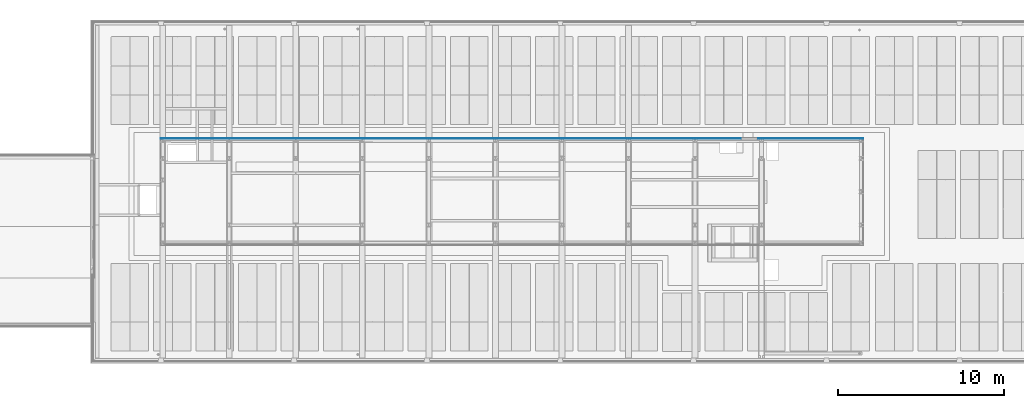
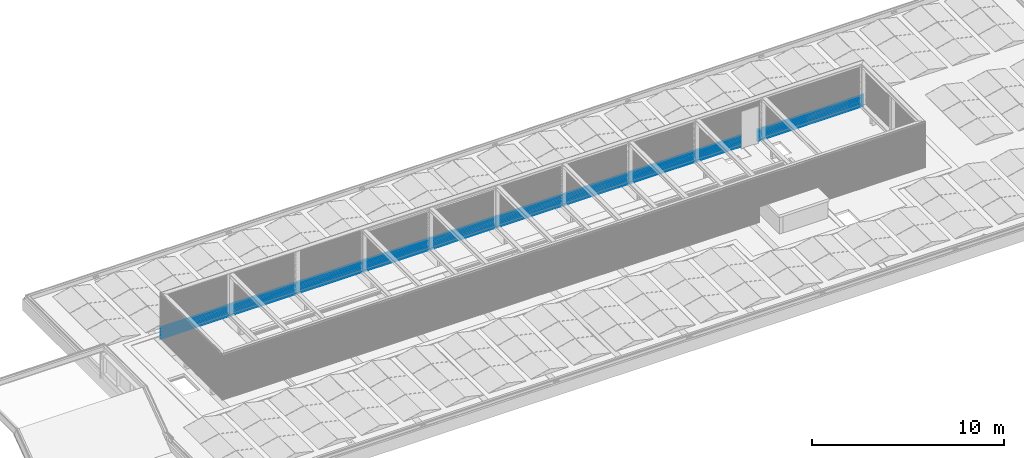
# One storey, part 45 of 63: 9 building element parts, 1 opening, 1 element without a shape of its own.
"""IFC2X3 building model written with IfcOpenShell, lengths in millimetres."""

from ifc_helpers import new_model, entity, si_unit, converted_unit, derived_unit, money_unit, direction, frame, origin_with_axes, place, context, subcontext, project, spatial, faceted_brep, material, type_object, element, aggregate, save


model = new_model("IFC2X3")

# Units and contexts
model_context = context("Model", 3, precision=0.01, world=origin_with_axes(), true_north=direction((0.0, 1.0)))
body_context = subcontext(model_context, "Body", "Model", "MODEL_VIEW")
ifc_project = project(units=[si_unit("LENGTHUNIT", "METRE", prefix="MILLI"), si_unit("AREAUNIT", "SQUARE_METRE"), si_unit("VOLUMEUNIT", "CUBIC_METRE"), converted_unit("PLANEANGLEUNIT", "DEGREE", entity("IfcPlaneAngleMeasure", 0.0174532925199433), si_unit("PLANEANGLEUNIT", "RADIAN"), dimensions=[0, 0, 0, 0, 0, 0, 0]), money_unit("EUR"), converted_unit("TIMEUNIT", "Year", entity("IfcTimeMeasure", 31557600.0), si_unit("TIMEUNIT", "SECOND"), dimensions=[0, 0, 1, 0, 0, 0, 0]), si_unit("MASSUNIT", "GRAM", prefix="KILO"), si_unit("THERMODYNAMICTEMPERATUREUNIT", "DEGREE_CELSIUS"), si_unit("LUMINOUSINTENSITYUNIT", "LUMEN"), si_unit("ENERGYUNIT", "JOULE", prefix="MEGA"), derived_unit("THERMALCONDUCTANCEUNIT", [(si_unit("POWERUNIT", "WATT"), 1), (si_unit("LENGTHUNIT", "METRE"), -1), (si_unit("THERMODYNAMICTEMPERATUREUNIT", "KELVIN"), -1)]), derived_unit("SPECIFICHEATCAPACITYUNIT", [(si_unit("ENERGYUNIT", "JOULE"), 1), (si_unit("MASSUNIT", "GRAM", prefix="KILO"), -1), (si_unit("THERMODYNAMICTEMPERATUREUNIT", "KELVIN"), -1)]), derived_unit("MASSDENSITYUNIT", [(si_unit("MASSUNIT", "GRAM", prefix="KILO"), 1), (si_unit("VOLUMEUNIT", "CUBIC_METRE"), -1)])], contexts=[model_context])

# Site, building, storey
site_placement = place(None, origin_with_axes())
site = spatial("IfcSite", under=ifc_project, at=site_placement, Name="<site naam>", CompositionType="ELEMENT")
building_placement = place(site_placement, origin_with_axes())
building = spatial("IfcBuilding", under=site, at=building_placement, Name="<Naam gebouw>", CompositionType="ELEMENT")
storey_placement = place(building_placement, frame((0.0, 0.0, 12770.0), z_axis=(0.0, 0.0, 1.0), x_axis=(1.0, 0.0, 0.0)))
storey = spatial("IfcBuildingStorey", under=building, at=storey_placement, Name="04 4e verdieping", CompositionType="ELEMENT", Elevation=12770.0)

# Wall, opening, building element parts
wall_type = type_object("IfcWallType", Name="Gevelbeplating golf 18 x 2900", PredefinedType="NOTDEFINED")
wall_placement = place(storey_placement, frame((58128.00007858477, 13218.00009009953, 299.9552842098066), z_axis=(0.0, 0.0, 1.0), x_axis=(-1.0, 0.0, 0.0)))
wall = element("IfcWall", 1, at=wall_placement, inside=storey, type_object=wall_type, Name="47_Binnenwand_Gevelbeplating")
opening_placement = place(wall_placement, frame((6856.073474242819, 0.0, -120.0392154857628), z_axis=(0.0, 0.0, 1.0), x_axis=(1.0, 0.0, 0.0)))
element("IfcOpeningElement", 2, at=opening_placement, cuts=wall, Name="47_BU-F-02_305", context=body_context, shape_type="Brep", body=[
    faceted_brep([(517.000000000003, 19.00000000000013, 2367.000000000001), (517.000000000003, 19.00000000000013, 0.0), (-517.000000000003, 19.00000000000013, 0.0), (-517.000000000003, 19.00000000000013, 2367.000000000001), (517.000000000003, -1.000078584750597, 2367.000000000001), (517.000000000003, -1.000078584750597, 0.0), (-517.000000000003, -1.000078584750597, 0.0), (-517.000000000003, -1.000078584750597, 2367.000000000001)], [[[0, 1, 2, 3]], [[4, 5, 1, 0]], [[5, 6, 2, 1]], [[6, 7, 3, 2]], [[7, 4, 0, 3]], [[6, 5, 4, 7]]]),
])
ifc_material = material(Name="gevelafwerking type 3 - Aluminium RAL1036")
building_element_part_1_placement = place(wall_placement, origin_with_axes())
building_element_part_1 = element("IfcBuildingElementPart", 3, at=building_element_part_1_placement, material=ifc_material, Name="gevelafwerking type 3 - Aluminium RAL1036", context=body_context, shape_type="Brep", body=[
    faceted_brep([(0.9999999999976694, 0.9999999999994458, 38.00000000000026), (0.9999999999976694, 0.0, 38.00000000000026), (42256.00016869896, 0.0, 38.00001341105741), (42256.00016869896, 0.9999999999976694, 38.00001341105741), (3.116478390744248, 2.188229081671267, 27.8876744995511), (3.116478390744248, 3.116478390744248, 27.8876744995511), (3.340126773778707, 2.257358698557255, 27.56821013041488), (42253.74282987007, 2.257358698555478, 27.56821013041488), (42253.74282987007, 3.340126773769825, 27.56821013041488), (42253.811958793, 3.116478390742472, 27.8876744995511), (9.041583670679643, 9.04158367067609, 19.42412115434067), (9.041583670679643, 8.209548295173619, 19.42412115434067), (9.398125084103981, 8.55525261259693, 18.95111073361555), (42247.44490768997, 8.555252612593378, 18.95111073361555), (42247.44490768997, 9.398125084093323, 18.95111073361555), (42247.79061367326, 9.041583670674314, 19.42412115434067), (15.62926287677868, 15.62926287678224, 10.68448868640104), (15.62926287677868, 14.5442322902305, 10.68448868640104), (15.70000052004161, 14.7751970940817, 10.36568676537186), (42241.22498571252, 14.77519709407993, 10.36568676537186), (42241.22498571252, 15.70000052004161, 10.36568676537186), (42241.45594962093, 15.62926287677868, 10.68448868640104), (18.00000000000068, 18.00000000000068, 0.0), (18.00000000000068, 16.9999976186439, 0.0), (42239.00018658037, 16.99999761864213, 0.0), (42239.00018658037, 17.99999999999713, 0.0)], [[[0, 1, 2, 3]], [[4, 1, 0, 5]], [[4, 6, 7, 2, 1]], [[3, 2, 7, 8, 9]], [[5, 0, 3, 9]], [[6, 4, 5, 10, 11]], [[11, 12, 13, 7, 6]], [[8, 7, 13, 14, 15]], [[10, 5, 9, 8, 15]], [[12, 11, 10, 16, 17]], [[17, 18, 19, 13, 12]], [[14, 13, 19, 20, 21]], [[16, 10, 15, 14, 21]], [[18, 17, 16, 22, 23]], [[18, 23, 24, 19]], [[20, 19, 24, 25]], [[22, 16, 21, 20, 25]], [[23, 22, 25, 24]]]),
])
building_element_part_2_placement = place(wall_placement, origin_with_axes())
building_element_part_2 = element("IfcBuildingElementPart", 4, at=building_element_part_2_placement, material=ifc_material, Name="gevelafwerking type 3 - Aluminium RAL1036", context=body_context, shape_type="Brep", body=[
    faceted_brep([(18238.00007858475, 15.62925335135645, 390.6844886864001), (18238.00007858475, 10.1433027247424, 397.9624982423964), (18018.00007858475, 10.1433027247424, 397.9624982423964), (18018.00007858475, 15.62925335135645, 390.6844886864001), (15.62925335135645, 15.62925335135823, 390.6844886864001), (9.041574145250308, 9.041574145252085, 399.4241211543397), (42247.7906512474, 9.041574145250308, 399.4241211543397), (42247.44495090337, 9.398112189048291, 398.9511152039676), (42241.45594798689, 15.62925335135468, 390.6844886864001), (18238.00007858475, 17.9999904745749, 380.0000019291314), (18238.00007858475, 16.99998809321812, 380.0000019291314), (18238.00007858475, 14.77518756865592, 390.3656912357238), (18238.00007858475, 10.1433027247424, 396.7591082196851), (18018.00007858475, 10.1433027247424, 396.7591082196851), (18018.00007858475, 14.77518756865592, 390.3656912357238), (18018.00007858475, 16.99998809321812, 380.0000019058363), (18018.00007858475, 17.9999904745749, 380.0000019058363), (17.99999047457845, 17.9999904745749, 380.0000000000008), (15.62925335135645, 14.54422600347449, 390.6844886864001), (9.398112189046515, 8.55524308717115, 398.9511152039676), (9.041574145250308, 8.209542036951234, 399.4241211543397), (42253.74282987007, 3.340114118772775, 407.5682146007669), (3.11646886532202, 3.116468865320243, 407.8876744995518), (42253.81195782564, 3.116468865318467, 407.8876744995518), (42253.74282987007, 2.257349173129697, 407.5682146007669), (42247.44495090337, 8.555243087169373, 398.9511152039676), (42241.22498571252, 15.69999000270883, 390.3656912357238), (42241.22498571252, 14.77518756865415, 390.3656912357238), (42239.00018658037, 17.99999047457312, 380.000004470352), (42239.00018658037, 16.99998809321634, 380.000004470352), (15.69999000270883, 14.7751875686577, 390.3656912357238), (17.99999047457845, 16.9999880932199, 380.0000000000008), (3.340114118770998, 2.25734917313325, 407.5682146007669), (3.11646886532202, 2.188220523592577, 407.8876744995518), (42256.00016869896, 0.9999904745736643, 418.0000178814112), (0.9999904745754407, 0.9999904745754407, 417.9999999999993), (42256.00016869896, -9.5254275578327e-06, 418.0000178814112), (0.9999904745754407, -9.525424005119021e-06, 417.9999999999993)], [[[0, 1, 2, 3, 4, 5, 6, 7, 8]], [[1, 0, 9, 10, 11, 12]], [[2, 1, 12, 13]], [[3, 2, 13, 14, 15, 16]], [[3, 16, 17, 4]], [[4, 18, 19, 20, 5]], [[21, 6, 5, 22, 23]], [[7, 6, 21, 24, 25]], [[26, 8, 7, 25, 27]], [[9, 0, 8, 26, 28]], [[10, 9, 28, 29]], [[11, 10, 29, 27]], [[12, 11, 27, 25, 19, 18, 30, 14, 13]], [[15, 14, 30, 31]], [[16, 15, 31, 17]], [[17, 31, 30, 18, 4]], [[24, 32, 20, 19, 25]], [[5, 20, 32, 33, 22]], [[34, 23, 22, 35]], [[21, 23, 34, 36, 24]], [[29, 28, 26, 27]], [[36, 37, 33, 32, 24]], [[35, 22, 33, 37]], [[36, 34, 35, 37]]]),
])
building_element_part_3_placement = place(wall_placement, origin_with_axes())
building_element_part_3 = element("IfcBuildingElementPart", 5, at=building_element_part_3_placement, material=ifc_material, Name="gevelafwerking type 3 - Aluminium RAL1036", context=body_context, shape_type="Brep", body=[
    faceted_brep([(18132.75007858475, 15.6292604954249, 86.68448868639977), (18132.75007858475, 10.14329121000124, 93.96252299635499), (18123.25007858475, 10.14329121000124, 93.96252299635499), (18123.25007858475, 15.6292604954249, 86.68448868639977), (15.62926049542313, 15.62926049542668, 86.68448868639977), (9.041581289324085, 9.041581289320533, 95.4241211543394), (42247.79062565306, 9.041581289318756, 95.4241211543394), (42247.44490768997, 9.398135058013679, 94.9510943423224), (42241.455961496, 15.62926049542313, 86.68448868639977), (18132.75007858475, 17.99999761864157, 75.99999296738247), (18132.75007858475, 16.99999523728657, 75.99999296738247), (18132.75007858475, 14.77519471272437, 86.36567037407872), (18132.75007858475, 10.14329121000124, 92.75911088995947), (18123.25007858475, 10.14329121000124, 92.75911088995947), (18123.25007858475, 14.77519471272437, 86.36567037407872), (18123.25007858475, 16.99999523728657, 75.99999297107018), (18123.25007858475, 17.99999761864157, 75.99999297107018), (17.99999761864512, 17.99999761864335, 76.00000000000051), (15.62926049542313, 14.54421803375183, 86.68448868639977), (9.398135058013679, 8.555250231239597, 94.9510943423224), (9.041581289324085, 8.209533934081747, 95.4241211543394), (3.116476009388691, 3.116476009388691, 103.8876744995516), (42253.81196233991, 3.116476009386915, 103.8876744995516), (42253.74282987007, 3.340135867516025, 103.5681937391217), (42253.74282987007, 2.257356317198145, 103.5681937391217), (42247.44490768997, 8.555250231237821, 94.9510943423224), (42241.22498571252, 14.77519471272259, 86.36567037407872), (42241.22498571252, 15.70000177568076, 86.36567037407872), (42239.00018658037, 17.99999761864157, 75.99998360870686), (42239.00018658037, 16.99999523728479, 75.99998360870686), (15.70000177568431, 14.77519471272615, 86.36567037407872), (17.99999761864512, 16.99999523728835, 76.00000000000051), (3.340135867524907, 2.257356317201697, 103.5681937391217), (3.116476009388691, 2.188223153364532, 103.8876744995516), (0.9999976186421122, 0.9999976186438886, 114.0000000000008), (42256.00016869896, 0.9999976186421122, 113.9999970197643), (42256.00016869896, -2.381359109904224e-06, 113.9999970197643), (0.9999976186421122, -2.381355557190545e-06, 114.0000000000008)], [[[0, 1, 2, 3, 4, 5, 6, 7, 8]], [[1, 0, 9, 10, 11, 12]], [[2, 1, 12, 13]], [[3, 2, 13, 14, 15, 16]], [[3, 16, 17, 4]], [[18, 19, 20, 5, 4]], [[6, 5, 21, 22, 23]], [[6, 23, 24, 25, 7]], [[8, 7, 25, 26, 27]], [[9, 0, 8, 27, 28]], [[10, 9, 28, 29]], [[11, 10, 29, 26]], [[12, 11, 26, 25, 19, 18, 30, 14, 13]], [[15, 14, 30, 31]], [[16, 15, 31, 17]], [[31, 30, 18, 4, 17]], [[32, 20, 19, 25, 24]], [[20, 32, 33, 21, 5]], [[22, 21, 34, 35]], [[22, 35, 36, 24, 23]], [[28, 27, 26, 29]], [[37, 33, 32, 24, 36]], [[21, 33, 37, 34]], [[35, 34, 37, 36]]]),
])
building_element_part_4_placement = place(wall_placement, origin_with_axes())
building_element_part_4 = element("IfcBuildingElementPart", 6, at=building_element_part_4_placement, material=ifc_material, Name="gevelafwerking type 3 - Aluminium RAL1036", context=body_context, shape_type="Brep", body=[
    faceted_brep([(18238.00007858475, 15.62925335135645, 314.6844886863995), (18238.00007858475, 10.1433027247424, 321.9624982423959), (18018.00007858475, 10.1433027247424, 321.9624982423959), (18018.00007858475, 15.62925335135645, 314.6844886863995), (15.62925335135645, 15.62925335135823, 314.6844886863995), (9.041574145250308, 9.041574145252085, 323.4241211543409), (42247.79066911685, 9.041574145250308, 323.4241211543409), (42247.44495090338, 9.398132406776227, 322.9510883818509), (42241.45596741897, 15.62925335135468, 314.6844886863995), (18238.00007858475, 17.9999904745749, 304.0000090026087), (18238.00007858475, 16.99998809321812, 304.0000090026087), (18238.00007858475, 14.7751875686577, 314.365664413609), (18238.00007858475, 10.1433027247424, 320.7590813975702), (18018.00007858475, 10.1433027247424, 320.7590813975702), (18018.00007858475, 14.7751875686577, 314.365664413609), (18018.00007858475, 16.99998809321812, 304.0000088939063), (18018.00007858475, 17.9999904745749, 304.0000088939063), (17.99999047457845, 17.9999904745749, 304.0000000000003), (15.62925335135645, 14.54420657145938, 314.6844886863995), (9.39813240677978, 8.555243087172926, 322.9510883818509), (9.041574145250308, 8.209522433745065, 323.4241211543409), (42253.74282987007, 3.340102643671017, 331.56823099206), (3.11646886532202, 3.116468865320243, 331.8876744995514), (42253.81195895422, 3.116468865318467, 331.8876744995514), (42253.74282987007, 2.257349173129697, 331.56823099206), (42247.44495090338, 8.55524308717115, 322.9510883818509), (42241.22498107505, 14.77518756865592, 314.365664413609), (42241.22498107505, 15.69999595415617, 314.365664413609), (42239.00018658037, 17.99999047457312, 304.0000208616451), (42239.00018658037, 16.99998809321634, 304.0000208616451), (15.69999595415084, 14.7751875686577, 314.365664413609), (17.99999047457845, 16.9999880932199, 304.0000000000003), (3.340102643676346, 2.25734917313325, 331.56823099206), (3.11646886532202, 2.188224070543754, 331.8876744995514), (42256.00016402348, 0.9999904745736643, 341.9999910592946), (0.9999904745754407, 0.9999904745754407, 342.0000000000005), (42256.00016402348, -9.5254275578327e-06, 341.9999910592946), (0.9999904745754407, -9.525424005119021e-06, 342.0000000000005)], [[[0, 1, 2, 3, 4, 5, 6, 7, 8]], [[1, 0, 9, 10, 11, 12]], [[2, 1, 12, 13]], [[3, 2, 13, 14, 15, 16]], [[3, 16, 17, 4]], [[4, 18, 19, 20, 5]], [[21, 6, 5, 22, 23]], [[24, 25, 7, 6, 21]], [[25, 26, 27, 8, 7]], [[9, 0, 8, 27, 28]], [[10, 9, 28, 29]], [[11, 10, 29, 26]], [[12, 11, 26, 25, 19, 18, 30, 14, 13]], [[15, 14, 30, 31]], [[16, 15, 31, 17]], [[17, 31, 30, 18, 4]], [[24, 32, 20, 19, 25]], [[5, 20, 32, 33, 22]], [[34, 23, 22, 35]], [[36, 24, 21, 23, 34]], [[27, 26, 29, 28]], [[36, 37, 33, 32, 24]], [[35, 22, 33, 37]], [[36, 34, 35, 37]]]),
])
building_element_part_5_placement = place(wall_placement, origin_with_axes())
building_element_part_5 = element("IfcBuildingElementPart", 7, at=building_element_part_5_placement, material=ifc_material, Name="gevelafwerking type 3 - Aluminium RAL1036", context=body_context, shape_type="Brep", body=[
    faceted_brep([(18132.75007858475, 11.85161336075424, 243.6961483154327), (18238.00007858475, 11.85161336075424, 243.6961483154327), (18238.00007858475, 10.14329121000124, 245.9625166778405), (18018.00007858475, 10.14329121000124, 245.9625166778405), (18018.00007858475, 11.85161336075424, 243.6961483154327), (18123.25007858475, 11.85161336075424, 243.6961483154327), (18123.25007858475, 15.62925573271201, 238.6844886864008), (15.62925573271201, 15.62925573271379, 238.6844886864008), (9.041576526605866, 9.041576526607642, 247.4241211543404), (42247.79065887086, 9.041576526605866, 247.4241211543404), (42247.44495090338, 9.398122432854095, 246.9511047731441), (42241.45595554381, 15.62925573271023, 238.6844886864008), (18132.75007858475, 15.62925573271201, 238.6844886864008), (18132.75007858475, 10.913386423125, 243.6961483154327), (18238.00007858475, 10.913386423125, 243.6961483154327), (18238.00007858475, 10.14329121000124, 244.7591147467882), (18018.00007858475, 10.14329121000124, 244.7591147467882), (18018.00007858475, 10.913386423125, 243.6961483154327), (18123.25007858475, 10.913386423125, 243.6961483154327), (18123.25007858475, 14.77518995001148, 238.3656808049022), (18123.25007858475, 16.99999047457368, 227.9999974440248), (18123.25007858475, 17.99999285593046, 227.9999974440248), (17.99999285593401, 17.99999285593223, 227.9999999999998), (15.62925573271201, 14.54422082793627, 238.6844886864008), (9.398122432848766, 8.555245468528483, 246.9511047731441), (9.041576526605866, 8.209536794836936, 247.4241211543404), (42253.74282987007, 3.340123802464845, 255.5682041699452), (3.116471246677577, 3.116471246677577, 255.8876744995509), (42253.81196008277, 3.116471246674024, 255.8876744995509), (42253.74282987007, 2.25735155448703, 255.5682041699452), (42247.44495090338, 8.55524546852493, 246.9511047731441), (42241.22498571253, 15.69999469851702, 238.3656808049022), (42241.22498571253, 14.77518995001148, 238.3656808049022), (42239.00018658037, 17.99999285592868, 227.9999940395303), (18132.75007858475, 17.99999285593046, 227.9999974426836), (18132.75007858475, 16.99999047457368, 227.9999974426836), (18132.75007858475, 14.77518995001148, 238.3656808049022), (15.69999469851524, 14.77518995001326, 238.3656808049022), (17.99999285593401, 16.99999047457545, 227.9999999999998), (3.340123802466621, 2.257351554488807, 255.5682041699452), (3.116471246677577, 2.188220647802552, 255.8876744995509), (42256.00016869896, 0.9999928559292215, 266.0000074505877), (0.9999928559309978, 0.9999928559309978, 266.0), (42256.00016869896, -7.144070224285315e-06, 266.0000074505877), (42239.00018658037, 16.99999047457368, 227.9999940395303), (0.9999928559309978, -7.144068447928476e-06, 266.0)], [[[0, 1, 2, 3, 4, 5, 6, 7, 8, 9, 10, 11, 12]], [[0, 13, 14, 1]], [[15, 2, 1, 14]], [[16, 3, 2, 15]], [[17, 4, 3, 16]], [[4, 17, 18, 5]], [[5, 18, 19, 20, 21, 6]], [[7, 6, 21, 22]], [[7, 23, 24, 25, 8]], [[26, 9, 8, 27, 28]], [[10, 9, 26, 29, 30]], [[31, 11, 10, 30, 32]], [[33, 34, 12, 11, 31]], [[35, 36, 13, 0, 12, 34]], [[14, 13, 36, 32, 30, 24, 23, 37, 19, 18, 17, 16, 15]], [[38, 20, 19, 37]], [[22, 21, 20, 38]], [[22, 38, 37, 23, 7]], [[29, 39, 25, 24, 30]], [[8, 25, 39, 40, 27]], [[41, 28, 27, 42]], [[26, 28, 41, 43, 29]], [[44, 33, 31, 32]], [[44, 35, 34, 33]], [[32, 36, 35, 44]], [[43, 45, 40, 39, 29]], [[42, 27, 40, 45]], [[43, 41, 42, 45]]]),
])
building_element_part_6_placement = place(wall_placement, origin_with_axes())
building_element_part_6 = element("IfcBuildingElementPart", 8, at=building_element_part_6_placement, material=ifc_material, Name="gevelafwerking type 3 - Aluminium RAL1036", context=body_context, shape_type="Brep", body=[
    faceted_brep([(18238.00007858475, 15.6292509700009, 466.6844886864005), (18238.00007858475, 10.1433027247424, 473.9624950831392), (18018.00007858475, 10.1433027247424, 473.9624950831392), (18018.00007858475, 15.6292509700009, 466.6844886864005), (15.6292509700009, 15.6292509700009, 466.6844886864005), (9.041571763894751, 9.041571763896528, 475.4241211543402), (42247.79066322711, 9.041571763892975, 475.4241211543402), (42247.44495090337, 9.398122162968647, 474.9510988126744), (42241.45595986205, 15.62925096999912, 466.6844886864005), (18238.00007858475, 17.99998809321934, 455.9999948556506), (18238.00007858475, 16.99998571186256, 455.9999948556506), (18238.00007858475, 14.77518518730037, 466.3656748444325), (18238.00007858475, 10.1433027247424, 472.7590885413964), (18018.00007858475, 10.1433027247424, 472.7590885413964), (18018.00007858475, 14.77518518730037, 466.3656748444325), (18018.00007858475, 16.99998571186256, 455.9999949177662), (18018.00007858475, 17.99998809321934, 455.9999949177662), (17.9999880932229, 17.99998809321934, 455.9999999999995), (15.6292509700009, 14.5442117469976, 466.6844886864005), (9.39812216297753, 8.555240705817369, 474.9510988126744), (9.041571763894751, 8.209527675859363, 475.4241211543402), (42253.74282987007, 3.340123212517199, 483.5681982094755), (3.116466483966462, 3.116466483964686, 483.8876744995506), (42253.81196137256, 3.11646648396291, 483.8876744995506), (42253.74282987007, 2.25734679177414, 483.5681982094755), (42247.44495090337, 8.555240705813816, 474.9510988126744), (42241.22498571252, 15.69999125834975, 466.3656748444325), (42241.22498571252, 14.77518518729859, 466.3656748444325), (42239.00018658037, 17.99998809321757, 455.9999880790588), (42239.00018658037, 16.99998571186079, 455.9999880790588), (15.69999125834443, 14.77518518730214, 466.3656748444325), (17.9999880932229, 16.99998571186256, 455.9999999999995), (3.340123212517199, 2.257346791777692, 483.5681982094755), (3.116466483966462, 2.188214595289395, 483.8876744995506), (42256.00016869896, 0.9999880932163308, 494.0000014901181), (0.9999880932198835, 0.9999880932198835, 493.9999999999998), (42256.00016869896, -1.190678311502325e-05, 494.0000014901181), (0.9999880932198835, -1.190678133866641e-05, 493.9999999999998)], [[[0, 1, 2, 3, 4, 5, 6, 7, 8]], [[1, 0, 9, 10, 11, 12]], [[2, 1, 12, 13]], [[3, 2, 13, 14, 15, 16]], [[3, 16, 17, 4]], [[4, 18, 19, 20, 5]], [[21, 6, 5, 22, 23]], [[7, 6, 21, 24, 25]], [[26, 8, 7, 25, 27]], [[9, 0, 8, 26, 28]], [[10, 9, 28, 29]], [[11, 10, 29, 27]], [[12, 11, 27, 25, 19, 18, 30, 14, 13]], [[15, 14, 30, 31]], [[16, 15, 31, 17]], [[17, 31, 30, 18, 4]], [[24, 32, 20, 19, 25]], [[5, 20, 32, 33, 22]], [[34, 23, 22, 35]], [[21, 23, 34, 36, 24]], [[29, 28, 26, 27]], [[36, 37, 33, 32, 24]], [[35, 22, 33, 37]], [[36, 34, 35, 37]]]),
])
building_element_part_7_placement = place(wall_placement, origin_with_axes())
building_element_part_7 = element("IfcBuildingElementPart", 9, at=building_element_part_7_placement, material=ifc_material, Name="gevelafwerking type 3 - Aluminium RAL1036", context=body_context, shape_type="Brep", body=[
    faceted_brep([(18238.00007858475, 15.62924620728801, 618.6844886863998), (18238.00007858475, 10.1433027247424, 625.9624887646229), (18018.00007858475, 10.1433027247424, 625.9624887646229), (18018.00007858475, 15.62924620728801, 618.6844886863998), (15.62924620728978, 15.62924620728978, 618.6844886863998), (9.041567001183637, 9.041567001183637, 627.4241211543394), (42247.79065092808, 9.04156700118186, 627.4241211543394), (42247.44495090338, 9.398109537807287, 626.9511092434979), (42241.45595230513, 15.62924620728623, 618.6844886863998), (18238.00007858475, 17.99998333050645, 607.9999993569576), (18238.00007858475, 16.99998094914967, 607.9999993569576), (18238.00007858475, 14.77518042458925, 618.3656852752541), (18238.00007858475, 10.1433027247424, 624.7590923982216), (18018.00007858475, 10.1433027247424, 624.7590923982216), (18018.00007858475, 14.77518042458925, 618.3656852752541), (18018.00007858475, 16.99998094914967, 607.999999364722), (18018.00007858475, 17.99998333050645, 607.999999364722), (17.99998333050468, 17.99998333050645, 608.0000000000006), (15.62924620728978, 14.54421454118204, 618.6844886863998), (9.398109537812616, 8.555235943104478, 626.9511092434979), (9.041567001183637, 8.209530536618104, 627.4241211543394), (42253.74282519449, 3.340111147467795, 635.5682086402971), (3.116461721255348, 3.116461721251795, 635.8876744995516), (42253.81194669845, 3.116461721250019, 635.8876744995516), (42253.74282519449, 2.257342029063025, 635.5682086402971), (42247.44495090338, 8.555235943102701, 626.9511092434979), (42241.22498571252, 14.77518042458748, 618.3656852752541), (42241.22498571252, 15.69998418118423, 618.3656852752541), (42239.00018658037, 17.99998333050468, 607.9999985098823), (42239.00018658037, 16.9999809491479, 607.9999985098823), (15.69998418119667, 14.77518042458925, 618.3656852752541), (17.99998333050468, 16.99998094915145, 608.0000000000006), (3.340111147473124, 2.257342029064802, 635.5682086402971), (3.116461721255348, 2.188212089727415, 635.8876744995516), (42256.0002072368, 0.9999833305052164, 646.0000119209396), (0.9999833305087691, 0.9999833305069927, 645.999999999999), (42256.0002072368, -1.666949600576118e-05, 646.0000119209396), (0.9999833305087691, -1.66694924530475e-05, 645.999999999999)], [[[0, 1, 2, 3, 4, 5, 6, 7, 8]], [[1, 0, 9, 10, 11, 12]], [[2, 1, 12, 13]], [[3, 2, 13, 14, 15, 16]], [[3, 16, 17, 4]], [[4, 18, 19, 20, 5]], [[21, 6, 5, 22, 23]], [[24, 25, 7, 6, 21]], [[25, 26, 27, 8, 7]], [[9, 0, 8, 27, 28]], [[10, 9, 28, 29]], [[11, 10, 29, 26]], [[12, 11, 26, 25, 19, 18, 30, 14, 13]], [[15, 14, 30, 31]], [[16, 15, 31, 17]], [[17, 31, 30, 18, 4]], [[24, 32, 20, 19, 25]], [[5, 20, 32, 33, 22]], [[34, 23, 22, 35]], [[36, 24, 21, 23, 34]], [[27, 26, 29, 28]], [[36, 37, 33, 32, 24]], [[35, 22, 33, 37]], [[36, 34, 35, 37]]]),
])
building_element_part_8_placement = place(wall_placement, origin_with_axes())
building_element_part_8 = element("IfcBuildingElementPart", 10, at=building_element_part_8_placement, material=ifc_material, Name="gevelafwerking type 3 - Aluminium RAL1036", context=body_context, shape_type="Brep", body=[
    faceted_brep([(18238.00007858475, 15.62924858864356, 542.6844886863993), (18238.00007858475, 10.1433027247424, 549.9624919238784), (18018.00007858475, 10.1433027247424, 549.9624919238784), (18018.00007858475, 15.62924858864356, 542.6844886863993), (15.62924858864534, 15.62924858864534, 542.6844886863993), (9.041569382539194, 9.041569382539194, 551.4241211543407), (42247.79064362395, 9.041569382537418, 551.4241211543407), (42247.44495090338, 9.398099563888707, 550.9511256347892), (42241.45594042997, 15.62924858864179, 542.6844886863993), (18238.00007858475, 17.99998571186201, 532.0000064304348), (18238.00007858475, 16.99998333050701, 532.0000064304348), (18238.00007858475, 14.77518280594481, 542.3657016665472), (18238.00007858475, 10.1433027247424, 548.7591120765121), (18018.00007858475, 10.1433027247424, 548.7591120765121), (18018.00007858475, 14.77518280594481, 542.3657016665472), (18018.00007858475, 16.99998333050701, 532.0000063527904), (18018.00007858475, 17.99998571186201, 532.0000063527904), (17.99998571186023, 17.99998571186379, 532.0), (15.62924858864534, 14.54422879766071, 542.6844886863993), (9.398099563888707, 8.555238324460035, 550.9511256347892), (9.041569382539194, 8.209544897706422, 551.4241211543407), (42253.74282987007, 3.340102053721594, 559.5682250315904), (3.116464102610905, 3.116464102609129, 559.8876744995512), (42253.81195717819, 3.116464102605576, 559.8876744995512), (42253.74282987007, 2.257344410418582, 559.5682250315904), (42247.44495090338, 8.555238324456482, 550.9511256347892), (42241.22498571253, 15.69998292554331, 542.3657016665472), (42241.22498571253, 14.77518280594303, 542.3657016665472), (42239.00018658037, 17.99998571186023, 532.0000149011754), (42239.00018658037, 16.99998333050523, 532.0000149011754), (15.69998292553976, 14.77518280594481, 542.3657016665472), (17.99998571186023, 16.99998333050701, 532.0), (3.340102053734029, 2.257344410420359, 559.5682250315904), (3.116464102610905, 2.188218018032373, 559.8876744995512), (42256.00021191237, 0.9999857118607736, 569.9999850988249), (0.9999857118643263, 0.9999857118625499, 570.0000000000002), (42256.00021191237, -1.428813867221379e-05, 569.9999850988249), (0.9999857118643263, -1.428813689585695e-05, 570.0000000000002)], [[[0, 1, 2, 3, 4, 5, 6, 7, 8]], [[1, 0, 9, 10, 11, 12]], [[2, 1, 12, 13]], [[3, 2, 13, 14, 15, 16]], [[3, 16, 17, 4]], [[4, 18, 19, 20, 5]], [[21, 6, 5, 22, 23]], [[7, 6, 21, 24, 25]], [[26, 8, 7, 25, 27]], [[9, 0, 8, 26, 28]], [[10, 9, 28, 29]], [[11, 10, 29, 27]], [[12, 11, 27, 25, 19, 18, 30, 14, 13]], [[15, 14, 30, 31]], [[16, 15, 31, 17]], [[17, 31, 30, 18, 4]], [[24, 32, 20, 19, 25]], [[5, 20, 32, 33, 22]], [[34, 23, 22, 35]], [[21, 23, 34, 36, 24]], [[29, 28, 26, 27]], [[36, 37, 33, 32, 24]], [[35, 22, 33, 37]], [[36, 34, 35, 37]]]),
])
building_element_part_9_placement = place(wall_placement, origin_with_axes())
building_element_part_9 = element("IfcBuildingElementPart", 11, at=building_element_part_9_placement, material=ifc_material, Name="gevelafwerking type 3 - Aluminium RAL1036", context=body_context, shape_type="Brep", body=[
    faceted_brep([(18238.00007858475, 15.62924382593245, 694.6844886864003), (18238.00007858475, 10.1433027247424, 701.9624856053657), (18018.00007858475, 10.1433027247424, 701.9624856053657), (18018.00007858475, 15.62924382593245, 694.6844886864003), (15.62924382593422, 15.62924382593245, 694.6844886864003), (9.04156461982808, 9.04156461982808, 703.4241211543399), (42247.7906629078, 9.041564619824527, 703.4241211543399), (42247.44495090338, 9.398119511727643, 702.9510928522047), (42241.45596418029, 15.62924382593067, 694.6844886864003), (18238.00007858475, 17.9999809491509, 683.9999922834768), (18238.00007858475, 16.99997856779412, 683.9999922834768), (18238.00007858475, 14.77517804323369, 694.365668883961), (18238.00007858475, 10.1433027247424, 700.759072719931), (18018.00007858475, 10.1433027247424, 700.759072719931), (18018.00007858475, 14.77517804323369, 694.365668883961), (18018.00007858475, 16.99997856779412, 683.9999923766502), (18018.00007858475, 17.9999809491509, 683.9999923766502), (17.99998094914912, 17.9999809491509, 683.9999999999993), (15.62924382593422, 14.54420028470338, 694.6844886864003), (9.398119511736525, 8.55523356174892, 702.9510928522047), (9.04156461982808, 8.209516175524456, 703.4241211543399), (42253.74282519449, 3.340120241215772, 711.568192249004), (3.116459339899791, 3.116459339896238, 711.8876744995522), (42253.811954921, 3.116459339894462, 711.8876744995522), (42253.74282519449, 2.257339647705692, 711.568192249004), (42247.44495090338, 8.555233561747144, 702.9510928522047), (42241.22498571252, 14.77517804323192, 694.365668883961), (42241.22498571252, 15.69998543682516, 694.365668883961), (42239.00018658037, 17.99998094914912, 683.9999821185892), (42239.00018658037, 16.99997856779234, 683.9999821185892), (15.69998543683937, 14.77517804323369, 694.365668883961), (17.99998094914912, 16.99997856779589, 683.9999999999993), (3.340120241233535, 2.257339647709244, 711.568192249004), (3.116459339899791, 2.18820616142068, 711.8876744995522), (42256.00021191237, 0.9999809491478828, 721.9999955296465), (0.9999809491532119, 0.9999809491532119, 721.9999999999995), (42256.00021191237, -1.905085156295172e-05, 721.9999955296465), (0.9999809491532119, -1.905084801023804e-05, 721.9999999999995)], [[[0, 1, 2, 3, 4, 5, 6, 7, 8]], [[1, 0, 9, 10, 11, 12]], [[2, 1, 12, 13]], [[3, 2, 13, 14, 15, 16]], [[3, 16, 17, 4]], [[4, 18, 19, 20, 5]], [[21, 6, 5, 22, 23]], [[24, 25, 7, 6, 21]], [[25, 26, 27, 8, 7]], [[9, 0, 8, 27, 28]], [[10, 9, 28, 29]], [[11, 10, 29, 26]], [[12, 11, 26, 25, 19, 18, 30, 14, 13]], [[15, 14, 30, 31]], [[16, 15, 31, 17]], [[17, 31, 30, 18, 4]], [[24, 32, 20, 19, 25]], [[5, 20, 32, 33, 22]], [[34, 23, 22, 35]], [[36, 24, 21, 23, 34]], [[27, 26, 29, 28]], [[36, 37, 33, 32, 24]], [[35, 22, 33, 37]], [[36, 34, 35, 37]]]),
])
aggregate(wall, [building_element_part_1, building_element_part_2, building_element_part_3, building_element_part_4, building_element_part_5, building_element_part_6, building_element_part_7, building_element_part_8, building_element_part_9])

save(model, "model.ifc")
